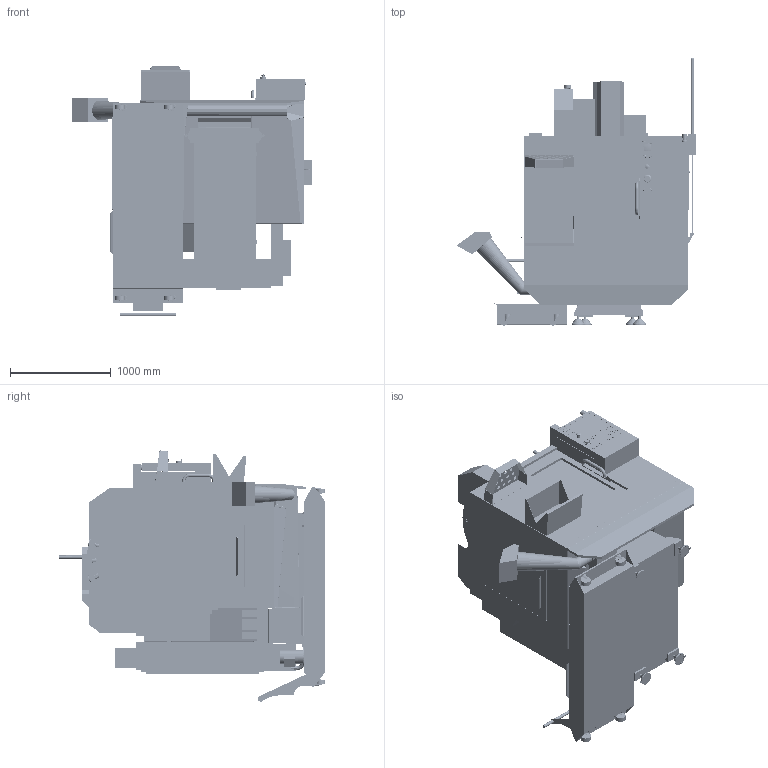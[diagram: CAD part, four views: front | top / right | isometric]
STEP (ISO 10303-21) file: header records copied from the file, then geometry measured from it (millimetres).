
FILE_DESCRIPTION (( 'STEP AP203' ), '1' );
FILE_NAME ('DM-1_14_2026.STEP', '2026-01-14T20:15:20', ( '' ), ( '' ), 'SwSTEP 2.0', 'SolidWorks 2023', '' );
FILE_SCHEMA (( 'CONFIG_CONTROL_DESIGN' ));
Length unit declared in the file: inch
Products named in the file (18): DM-1- Waycovers; DM-1- 18+1 Pkt Tool Changer Arm Up; DM-1- Floor; DM-1- 18+1 Pkt Carousel; DM-1- Enclosure; DM-1_14_2026; DM-1- Anchor Pattern; DM-1- Base and Column; DM-1- Automatic Door; DM-1- Control Panel; DM-1- Saddle; DM-1- Auto Window; DM-1- Chip Chute; DM-1- 18+1 Pkt Tool Changer Arm Down; DM-1- Z Axis; DM-1- Leveling Pads; DM-1- Table; DM-1- 55 Gallon Tank
Assembly tree (17 placements, depth 2):
  DM-1_14_2026
    DM-1- Base and Column
    DM-1- Leveling Pads
    DM-1- Anchor Pattern
    DM-1- Saddle
    DM-1- Table
    DM-1- Waycovers
    DM-1- Z Axis
    DM-1- 18+1 Pkt Carousel
    DM-1- 18+1 Pkt Tool Changer Arm Up
    DM-1- 18+1 Pkt Tool Changer Arm Down
    DM-1- Floor
    DM-1- Enclosure
    DM-1- Automatic Door
    DM-1- Auto Window
    DM-1- Control Panel
    DM-1- Chip Chute
    DM-1- 55 Gallon Tank
Bounding box: 2368.32 x 2644.45 x 2489.49 mm (x, y, z)
Volume: 1758125916.7 mm3; surface area: 64471680.3 mm2
Topology: 47 solids, 99 shells, 14541 faces, 38628 edges, 24748 vertices
Faces by surface type: plane 8398, cylinder 3344, cone 1179, bspline 1012, torus 538, sphere 70
Entity records: 492294 total; most frequent: CARTESIAN_POINT 134630, ORIENTED_EDGE 77090, DIRECTION 70030, EDGE_CURVE 38545, LINE 24838, VECTOR 24838, VERTEX_POINT 24748, AXIS2_PLACEMENT_3D 22596
